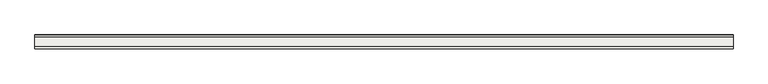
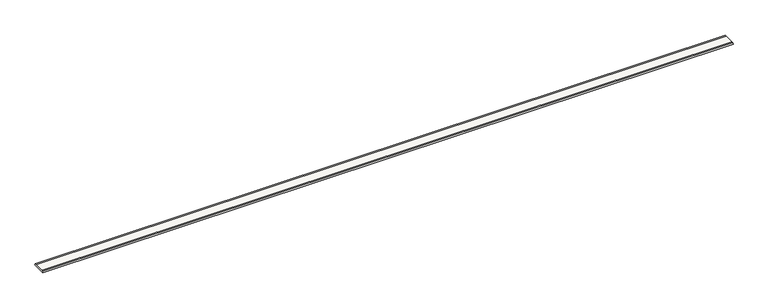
"""IFC4 building model written with IfcOpenShell, lengths in millimetres: slab geometry, ROSA GRES_245 FL_Colocación en plano : Rejilla 245 FL_Tresor_Java_Anti-Slip."""

from ifc_helpers import new_model, si_unit, point, frame, frame_2d, origin, place, context, project, spatial, polyline, circle_curve, trimmed, segment, composite_curve, outline, extrude, source, transform, mapped, element, save


def slab_4836348c(model_context):
    return source(origin(), model_context, "Body", "SweptSolid", [
        extrude(outline(composite_curve([segment(trimmed(circle_curve(frame_2d((-159.1366814, -720.2412375)), 721.556477), [point((-238.1232639, -3.0209998))], [point((-202.6833158, 0.0))], False, "CARTESIAN"), True, "CONTINUOUS"), segment(polyline([(-202.6833158, 0.0), (-42.7380732, 0.0)]), True, "CONTINUOUS"), segment(trimmed(circle_curve(frame_2d((-86.2847076, -720.2412375)), 721.556477), [point((-42.7380732, 0.0))], [point((-6.8503894, -3.0704499))], False, "CARTESIAN"), True, "CONTINUOUS"), segment(polyline([(-6.8503894, -3.0704499), (-0.9482737, -22.0), (-244.0502169, -22.0), (-238.1232639, -3.0209998)]), True, "CONTINUOUS")], self_intersect=False)), frame((0.0, 0.0, 0.0), z_axis=(1.0, 0.0, 0.0), x_axis=(0.0, 1.0, 0.0)), (0.0, 0.0, 1.0), 12085.0),
    ])


if __name__ == "__main__":
    model = new_model("IFC4")
    model_context = context("Model", 3, world=origin())
    ifc_project = project(units=[si_unit("LENGTHUNIT", "METRE", prefix="MILLI")], contexts=[model_context])
    site = spatial("IfcSite", under=ifc_project)
    building = spatial("IfcBuilding", under=site)
    placement = place(None, origin())
    slab_shape = slab_4836348c(model_context)
    element("IfcSlab", 1, ObjectType="ROSA GRES_245 FL_Colocación en plano : Rejilla 245 FL_Tresor_Java_Anti-Slip", at=placement, inside=building, context=model_context, shape_type="MappedRepresentation", body=[
        mapped(slab_shape, transform((0.0, 0.0, 0.0), x_axis=(1.0, 0.0, 0.0), y_axis=(0.0, 1.0, 0.0), z_axis=(0.0, 0.0, 1.0))),
    ])
    save(model, "model.ifc")
